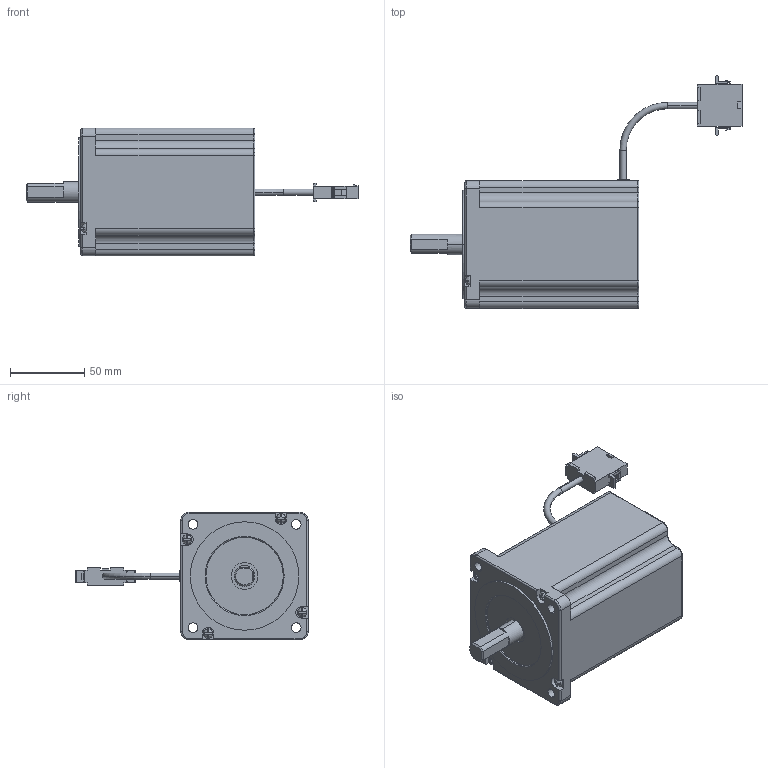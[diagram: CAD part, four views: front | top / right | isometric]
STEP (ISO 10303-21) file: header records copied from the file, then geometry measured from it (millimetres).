
FILE_DESCRIPTION (( 'STEP AP203' ), '1' );
FILE_NAME ('P21-MO-086-02-R00.STEP', '2015-06-30T08:43:00', ( '' ), ( '' ), 'SwSTEP 2.0', 'SolidWorks 2013', '' );
FILE_SCHEMA (( 'CONFIG_CONTROL_DESIGN' ));
Length unit declared in the file: millimetre
Products named in the file (3): M21-MO-086-02-R00; Power Cable 86; P21-MO-086-02-R00
Assembly tree (2 placements, depth 2):
  P21-MO-086-02-R00
    M21-MO-086-02-R00
    Power Cable 86
Bounding box: 223.38 x 156.75 x 86 mm (x, y, z)
Volume: 795734.6 mm3; surface area: 61221.4 mm2
Topology: 2 solids, 2 shells, 307 faces, 822 edges, 530 vertices
Faces by surface type: plane 194, cylinder 87, torus 14, bspline 8, cone 4
Entity records: 10169 total; most frequent: CARTESIAN_POINT 2085, DIRECTION 1638, ORIENTED_EDGE 1628, EDGE_CURVE 814, AXIS2_PLACEMENT_3D 556, VERTEX_POINT 530, LINE 526, VECTOR 526
